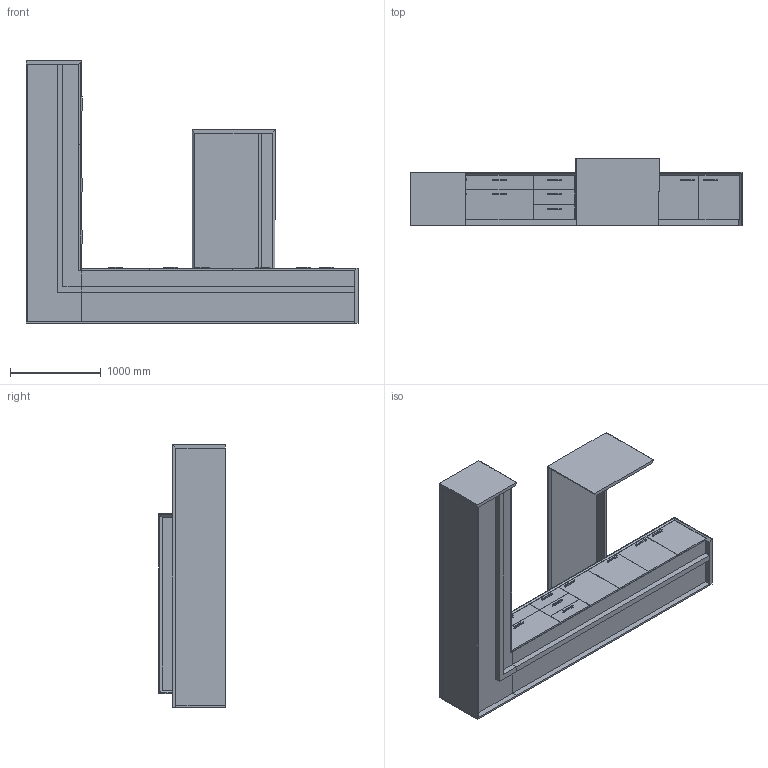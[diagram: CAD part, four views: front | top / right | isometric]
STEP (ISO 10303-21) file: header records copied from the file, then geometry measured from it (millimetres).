
FILE_DESCRIPTION(/* description */ ('','CAx-IF Rec.Pracs.---Representation and Presentation of Product Manufacturing Information (PMI)---4.0---2014-10-13'),/* implementation_level */ '2;1');
FILE_NAME(/* name */ 'AERO^PO5.stp',/* time_stamp */ '2024-12-05T16:32:58-05:00',/* author */ ('mbowman'),/* organization */ (''),/* preprocessor_version */ 'ST-DEVELOPER v19.2',/* originating_system */ 'Autodesk Inventor 2023',/* authorisation */ '');
FILE_SCHEMA (('AP242_MANAGED_MODEL_BASED_3D_ENGINEERING_MIM_LF { 1 0 10303 442 1 1 4 }'));
Length unit declared in the file: inch
Products named in the file (5): CCN^AERO_120 T SHAPE OFFICE; AERO^OFFICE 5_24x120 SIDE CREDENZA-PARTS SOLID; AERO^OFFICE 5_REAR LOW CREDENZA-PARTS SOLID; AERO^OFFICE 5_36x78 WORKSURFACE-PARTS SOLID; H-Q-PULLNEW
Assembly tree (17 placements, depth 2):
  CCN^AERO_120 T SHAPE OFFICE
    AERO^OFFICE 5_24x120 SIDE CREDENZA-PARTS SOLID
    AERO^OFFICE 5_REAR LOW CREDENZA-PARTS SOLID
    AERO^OFFICE 5_36x78 WORKSURFACE-PARTS SOLID
    H-Q-PULLNEW  x14
Bounding box: 3657.6 x 736.6 x 2895.6 mm (x, y, z)
Volume: 499664458.2 mm3; surface area: 40639677 mm2
Topology: 50 solids, 50 shells, 383 faces, 819 edges, 536 vertices
Faces by surface type: plane 299, cone 28, cylinder 28, bspline 28
Full cylindrical faces by diameter (mm): 3.962 x28
Entity records: 8284 total; most frequent: CARTESIAN_POINT 1755, DIRECTION 1120, ORIENTED_EDGE 1062, EDGE_CURVE 531, LINE 524, VECTOR 524, STYLED_ITEM 370, VERTEX_POINT 354
